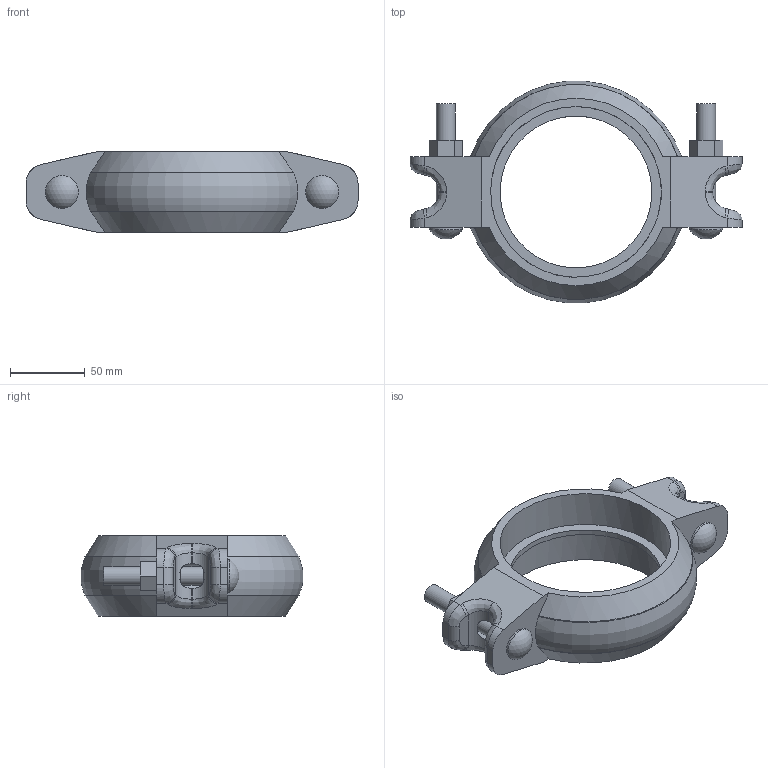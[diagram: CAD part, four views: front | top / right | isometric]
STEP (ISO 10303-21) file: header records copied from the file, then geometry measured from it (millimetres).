
FILE_DESCRIPTION(/* description */ ('QUICKVIC RIGID COUPLING FOR STEEL STYLE 107N','CAx-IF Rec.Pracs.---Representation and Presentation of Product Manufacturing Information (PMI)---4.0---2014-10-13'),/* implementation_level */ '2;1');
FILE_NAME(/* name */ 'C:\Users\Vjadhav\Desktop\CAD for Inventor\1\Coupling bolt thickness\107N\STEP\Victaulic_IPS_Coupling Rigid_Style 107N (OGS)\Victaulic_IPS_Coupling Rigid_Style 107N (OGS)_4 (100).stp',/* time_stamp */ '2022-03-28T14:19:17+06:00',/* author */ ('jheald'),/* organization */ ('Victaulic'),/* preprocessor_version */ 'ST-DEVELOPER v17.2',/* originating_system */ 'Autodesk Inventor 2019',/* authorisation */ '');
FILE_SCHEMA (('AP242_MANAGED_MODEL_BASED_3D_ENGINEERING_MIM_LF { 1 0 10303 442 1 1 4 }'));
Length unit declared in the file: inch
Products named in the file (1): 107N-04.0
Bounding box: 222.25 x 148.25 x 54.1 mm (x, y, z)
Volume: 437551.6 mm3; surface area: 80584.6 mm2
Topology: 1 solids, 1 shells, 119 faces, 315 edges, 202 vertices
Faces by surface type: plane 50, cylinder 41, bspline 16, torus 6, cone 4, sphere 2
Full cylindrical faces by diameter (mm): 12.7 x4, 22.225 x2, 101.6 x1, 114.3 x2
Entity records: 4636 total; most frequent: CARTESIAN_POINT 1410, DIRECTION 647, ORIENTED_EDGE 630, EDGE_CURVE 315, AXIS2_PLACEMENT_3D 243, VERTEX_POINT 202, LINE 161, VECTOR 161
